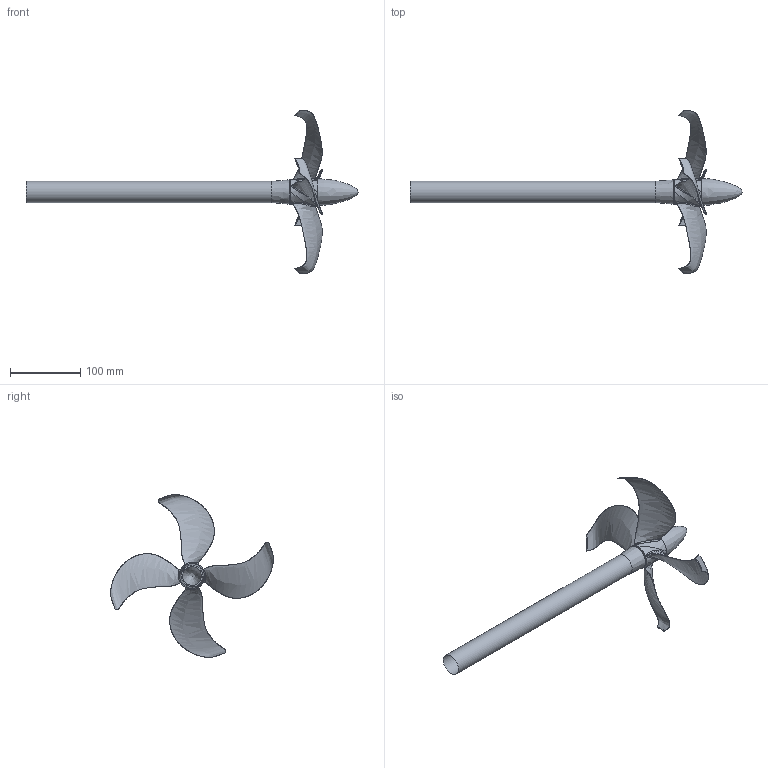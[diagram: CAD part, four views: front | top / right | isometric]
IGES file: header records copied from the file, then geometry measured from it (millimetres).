
Global section: file name: U:\Klose\Projekte\Sonstiges\ITTC Benchmark P1727\Propeller geometry\P1727_geometry.igs; native system: Rhinoceros ( Jul  9 2009 ); preprocessor: Trout Lake IGES 012 Jul  9 2009; date: 151007.103813; units: millimetre
Bounding box: 473.18 x 232.3 x 232.3 mm (x, y, z)
Surface area: 88457.3 mm2 (no closed solid volume)
Topology: 0 solids, 0 shells, 54 faces, 473 edges, 472 vertices
Faces by surface type: bspline 54
